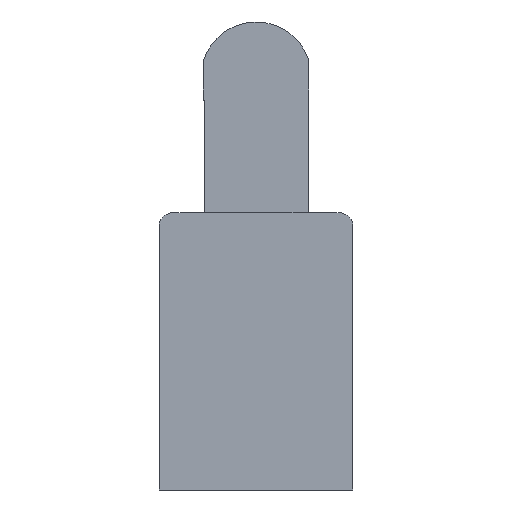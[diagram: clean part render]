
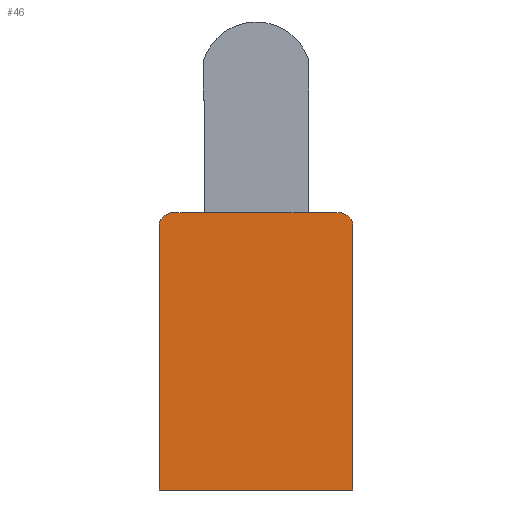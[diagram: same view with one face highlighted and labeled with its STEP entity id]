
A CAD part, left-side view. The second image highlights one B-rep face of the part: STEP entity #46.
In plain terms, the highlighted planar face has unit normal (-1, 0, 0).
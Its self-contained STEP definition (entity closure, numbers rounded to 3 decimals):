
#6 = DIRECTION ( 'NONE',  ( -1., 0., 0. ) ) ;
#9 = DIRECTION ( 'NONE',  ( 0., 0., 1. ) ) ;
#21 = CIRCLE ( 'NONE', #288, 2. ) ;
#36 = CARTESIAN_POINT ( 'NONE',  ( -200., 14., -40. ) ) ;
#46 = ADVANCED_FACE ( 'NONE', ( #294 ), #696, .T. ) ;
#48 = ORIENTED_EDGE ( 'NONE', *, *, #580, .T. ) ;
#73 = VERTEX_POINT ( 'NONE', #482 ) ;
#81 = VECTOR ( 'NONE', #321, 1000. ) ;
#119 = EDGE_LOOP ( 'NONE', ( #461, #704, #169, #252, #174, #48, #347, #180 ) ) ;
#130 = CARTESIAN_POINT ( 'NONE',  ( -200., -11.956, -2. ) ) ;
#149 = VERTEX_POINT ( 'NONE', #575 ) ;
#169 = ORIENTED_EDGE ( 'NONE', *, *, #208, .T. ) ;
#174 = ORIENTED_EDGE ( 'NONE', *, *, #292, .T. ) ;
#175 = EDGE_CURVE ( 'NONE', #384, #447, #451, .T. ) ;
#177 = VERTEX_POINT ( 'NONE', #649 ) ;
#179 = AXIS2_PLACEMENT_3D ( 'NONE', #284, #390, #442 ) ;
#180 = ORIENTED_EDGE ( 'NONE', *, *, #524, .T. ) ;
#197 = LINE ( 'NONE', #218, #474 ) ;
#199 = CARTESIAN_POINT ( 'NONE',  ( -200., 12., 0. ) ) ;
#208 = EDGE_CURVE ( 'NONE', #149, #267, #21, .T. ) ;
#218 = CARTESIAN_POINT ( 'NONE',  ( -200., 12., 0. ) ) ;
#241 = VECTOR ( 'NONE', #586, 1000. ) ;
#252 = ORIENTED_EDGE ( 'NONE', *, *, #323, .T. ) ;
#256 = CARTESIAN_POINT ( 'NONE',  ( -200., -11.956, 0. ) ) ;
#267 = VERTEX_POINT ( 'NONE', #256 ) ;
#273 = DIRECTION ( 'NONE',  ( -1., 0., 0. ) ) ;
#277 = CARTESIAN_POINT ( 'NONE',  ( -200., 14., -40. ) ) ;
#284 = CARTESIAN_POINT ( 'NONE',  ( -200., 12., -2. ) ) ;
#288 = AXIS2_PLACEMENT_3D ( 'NONE', #664, #273, #9 ) ;
#292 = EDGE_CURVE ( 'NONE', #668, #177, #401, .T. ) ;
#294 = FACE_OUTER_BOUND ( 'NONE', #119, .T. ) ;
#314 = CARTESIAN_POINT ( 'NONE',  ( -200., 14., -40. ) ) ;
#317 = CARTESIAN_POINT ( 'NONE',  ( -200., 14., -2. ) ) ;
#321 = DIRECTION ( 'NONE',  ( 0., 1., 0. ) ) ;
#323 = EDGE_CURVE ( 'NONE', #267, #668, #197, .T. ) ;
#328 = DIRECTION ( 'NONE',  ( 0., 0., 1. ) ) ;
#341 = CIRCLE ( 'NONE', #179, 2. ) ;
#347 = ORIENTED_EDGE ( 'NONE', *, *, #666, .T. ) ;
#384 = VERTEX_POINT ( 'NONE', #277 ) ;
#390 = DIRECTION ( 'NONE',  ( -1., 0., 0. ) ) ;
#401 = LINE ( 'NONE', #544, #81 ) ;
#429 = AXIS2_PLACEMENT_3D ( 'NONE', #130, #6, #328 ) ;
#442 = DIRECTION ( 'NONE',  ( 0., 0., 1. ) ) ;
#447 = VERTEX_POINT ( 'NONE', #601 ) ;
#451 = LINE ( 'NONE', #36, #605 ) ;
#461 = ORIENTED_EDGE ( 'NONE', *, *, #175, .T. ) ;
#474 = VECTOR ( 'NONE', #541, 1000. ) ;
#482 = CARTESIAN_POINT ( 'NONE',  ( -200., 12., 0. ) ) ;
#501 = CARTESIAN_POINT ( 'NONE',  ( -200., -7.5, 0. ) ) ;
#503 = VERTEX_POINT ( 'NONE', #317 ) ;
#524 = EDGE_CURVE ( 'NONE', #503, #384, #675, .T. ) ;
#529 = DIRECTION ( 'NONE',  ( 0., 0., 1. ) ) ;
#541 = DIRECTION ( 'NONE',  ( 0., 1., 0. ) ) ;
#544 = CARTESIAN_POINT ( 'NONE',  ( -200., 12., 0. ) ) ;
#557 = LINE ( 'NONE', #199, #241 ) ;
#569 = VECTOR ( 'NONE', #592, 1000. ) ;
#575 = CARTESIAN_POINT ( 'NONE',  ( -200., -13.956, -2. ) ) ;
#580 = EDGE_CURVE ( 'NONE', #177, #73, #557, .T. ) ;
#586 = DIRECTION ( 'NONE',  ( 0., 1., 0. ) ) ;
#592 = DIRECTION ( 'NONE',  ( 0., 0., -1. ) ) ;
#601 = CARTESIAN_POINT ( 'NONE',  ( -200., -13.956, -40. ) ) ;
#605 = VECTOR ( 'NONE', #641, 1000. ) ;
#627 = EDGE_CURVE ( 'NONE', #447, #149, #673, .T. ) ;
#641 = DIRECTION ( 'NONE',  ( 0., -1., 0. ) ) ;
#642 = CARTESIAN_POINT ( 'NONE',  ( -200., -13.956, -40. ) ) ;
#649 = CARTESIAN_POINT ( 'NONE',  ( -200., 7.5, 0. ) ) ;
#651 = VECTOR ( 'NONE', #529, 1000. ) ;
#664 = CARTESIAN_POINT ( 'NONE',  ( -200., -11.956, -2. ) ) ;
#666 = EDGE_CURVE ( 'NONE', #73, #503, #341, .T. ) ;
#668 = VERTEX_POINT ( 'NONE', #501 ) ;
#673 = LINE ( 'NONE', #642, #651 ) ;
#675 = LINE ( 'NONE', #314, #569 ) ;
#696 = PLANE ( 'NONE',  #429 ) ;
#704 = ORIENTED_EDGE ( 'NONE', *, *, #627, .T. ) ;
